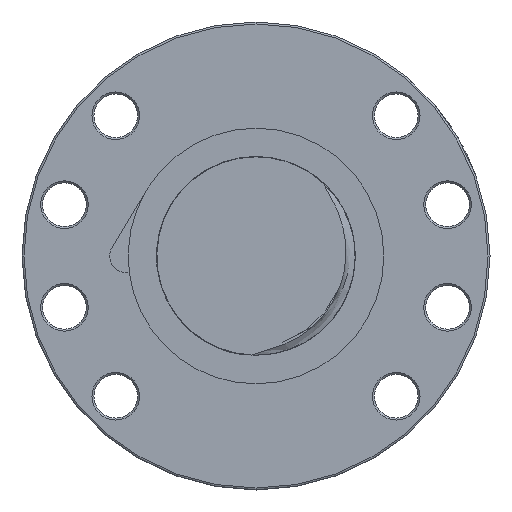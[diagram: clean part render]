
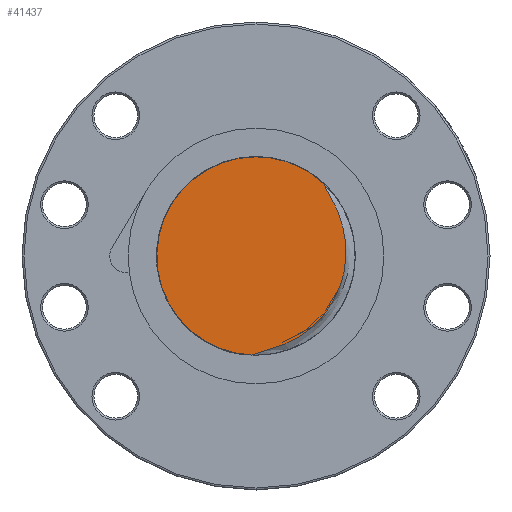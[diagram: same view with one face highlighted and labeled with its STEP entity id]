
A CAD part, left-side view. The second image highlights one B-rep face of the part: STEP entity #41437.
In plain terms, the highlighted planar face has unit normal (-1, 0, 0).
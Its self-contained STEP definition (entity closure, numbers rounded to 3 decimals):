
#1887 = CARTESIAN_POINT ( 'NONE',  ( -295., -5.178, -23.082 ) ) ;
#1888 = CARTESIAN_POINT ( 'NONE',  ( -295., -4.614, -23.28 ) ) ;
#1889 = CARTESIAN_POINT ( 'NONE',  ( -295., -3.478, -23.648 ) ) ;
#1890 = CARTESIAN_POINT ( 'NONE',  ( -295., -2.906, -23.819 ) ) ;
#1891 = CARTESIAN_POINT ( 'NONE',  ( -295., -1.757, -24.142 ) ) ;
#1892 = CARTESIAN_POINT ( 'NONE',  ( -295., -1.18, -24.294 ) ) ;
#1893 = CARTESIAN_POINT ( 'NONE',  ( -295., -0.316, -24.528 ) ) ;
#1894 = CARTESIAN_POINT ( 'NONE',  ( -295., -0.028, -24.607 ) ) ;
#1895 = CARTESIAN_POINT ( 'NONE',  ( -295., 0.544, -24.777 ) ) ;
#1896 = CARTESIAN_POINT ( 'NONE',  ( -295., 0.828, -24.866 ) ) ;
#1897 = CARTESIAN_POINT ( 'NONE',  ( -295., 1.104, -24.976 ) ) ;
#1898 = B_SPLINE_CURVE_WITH_KNOTS ( 'NONE', 3,
 ( #1897, #1896, #1895, #1894, #1893, #1892, #1891, #1890, #1889, #1888, #1887, #1969, #1968, #1967, #1966, #1965, #1964, #1963, #1962, #1961, #1960, #1959, #1958, #1957, #1956, #1955, #1954, #1953, #1952, #1951, #1950, #1949, #1948, #1947, #1946, #1945, #1944, #1943, #1942, #1941, #1940, #1939, #1938, #1937, #1936, #1935, #1934, #1933, #1932, #1931, #1930, #1929, #1928, #1927 ),
 .UNSPECIFIED., .F., .F.,
 ( 4, 2, 2, 2, 2, 2, 2, 2, 2, 2, 2, 2, 2, 2, 2, 2, 2, 2, 2, 2, 2, 2, 2, 2, 2, 2, 4 ),
 ( 0.001, 0.002, 0.002, 0.004, 0.006, 0.008, 0.011, 0.013, 0.015, 0.018, 0.022, 0.024, 0.026, 0.029, 0.031, 0.033, 0.036, 0.038, 0.04, 0.043, 0.047, 0.049, 0.051, 0.054, 0.056, 0.057, 0.058 ),
 .UNSPECIFIED. ) ;
#1927 = CARTESIAN_POINT ( 'NONE',  ( -295., -16.879, 18.441 ) ) ;
#1928 = CARTESIAN_POINT ( 'NONE',  ( -295., -16.997, 18.169 ) ) ;
#1929 = CARTESIAN_POINT ( 'NONE',  ( -295., -17.134, 17.906 ) ) ;
#1930 = CARTESIAN_POINT ( 'NONE',  ( -295., -17.417, 17.384 ) ) ;
#1931 = CARTESIAN_POINT ( 'NONE',  ( -295., -17.564, 17.126 ) ) ;
#1932 = CARTESIAN_POINT ( 'NONE',  ( -295., -18.009, 16.352 ) ) ;
#1933 = CARTESIAN_POINT ( 'NONE',  ( -295., -18.308, 15.838 ) ) ;
#1934 = CARTESIAN_POINT ( 'NONE',  ( -295., -19.18, 14.283 ) ) ;
#1935 = CARTESIAN_POINT ( 'NONE',  ( -295., -19.727, 13.23 ) ) ;
#1936 = CARTESIAN_POINT ( 'NONE',  ( -295., -20.456, 11.605 ) ) ;
#1937 = CARTESIAN_POINT ( 'NONE',  ( -295., -20.684, 11.055 ) ) ;
#1938 = CARTESIAN_POINT ( 'NONE',  ( -295., -21.109, 9.942 ) ) ;
#1939 = CARTESIAN_POINT ( 'NONE',  ( -295., -21.305, 9.376 ) ) ;
#1940 = CARTESIAN_POINT ( 'NONE',  ( -295., -21.837, 7.671 ) ) ;
#1941 = CARTESIAN_POINT ( 'NONE',  ( -295., -22.117, 6.521 ) ) ;
#1942 = CARTESIAN_POINT ( 'NONE',  ( -295., -22.52, 4.193 ) ) ;
#1943 = CARTESIAN_POINT ( 'NONE',  ( -295., -22.644, 3.014 ) ) ;
#1944 = CARTESIAN_POINT ( 'NONE',  ( -295., -22.707, 1.224 ) ) ;
#1945 = CARTESIAN_POINT ( 'NONE',  ( -295., -22.707, 0.626 ) ) ;
#1946 = CARTESIAN_POINT ( 'NONE',  ( -295., -22.665, -0.561 ) ) ;
#1947 = CARTESIAN_POINT ( 'NONE',  ( -295., -22.623, -1.152 ) ) ;
#1948 = CARTESIAN_POINT ( 'NONE',  ( -295., -22.435, -2.914 ) ) ;
#1949 = CARTESIAN_POINT ( 'NONE',  ( -295., -22.227, -4.076 ) ) ;
#1950 = CARTESIAN_POINT ( 'NONE',  ( -295., -21.79, -5.802 ) ) ;
#1951 = CARTESIAN_POINT ( 'NONE',  ( -295., -21.623, -6.375 ) ) ;
#1952 = CARTESIAN_POINT ( 'NONE',  ( -295., -21.247, -7.51 ) ) ;
#1953 = CARTESIAN_POINT ( 'NONE',  ( -295., -21.039, -8.067 ) ) ;
#1954 = CARTESIAN_POINT ( 'NONE',  ( -295., -20.36, -9.708 ) ) ;
#1955 = CARTESIAN_POINT ( 'NONE',  ( -295., -19.831, -10.762 ) ) ;
#1956 = CARTESIAN_POINT ( 'NONE',  ( -295., -18.929, -12.285 ) ) ;
#1957 = CARTESIAN_POINT ( 'NONE',  ( -295., -18.609, -12.782 ) ) ;
#1958 = CARTESIAN_POINT ( 'NONE',  ( -295., -17.933, -13.757 ) ) ;
#1959 = CARTESIAN_POINT ( 'NONE',  ( -295., -17.575, -14.236 ) ) ;
#1960 = CARTESIAN_POINT ( 'NONE',  ( -295., -16.45, -15.631 ) ) ;
#1961 = CARTESIAN_POINT ( 'NONE',  ( -295., -15.643, -16.497 ) ) ;
#1962 = CARTESIAN_POINT ( 'NONE',  ( -295., -13.92, -18.109 ) ) ;
#1963 = CARTESIAN_POINT ( 'NONE',  ( -295., -13.005, -18.855 ) ) ;
#1964 = CARTESIAN_POINT ( 'NONE',  ( -295., -11.55, -19.883 ) ) ;
#1965 = CARTESIAN_POINT ( 'NONE',  ( -295., -11.05, -20.212 ) ) ;
#1966 = CARTESIAN_POINT ( 'NONE',  ( -295., -10.031, -20.835 ) ) ;
#1967 = CARTESIAN_POINT ( 'NONE',  ( -295., -9.513, -21.128 ) ) ;
#1968 = CARTESIAN_POINT ( 'NONE',  ( -295., -7.935, -21.959 ) ) ;
#1969 = CARTESIAN_POINT ( 'NONE',  ( -295., -6.85, -22.444 ) ) ;
#18207 = DIRECTION ( 'NONE',  ( 0., 0., -1. ) ) ;
#18208 = DIRECTION ( 'NONE',  ( 1., 0., 0. ) ) ;
#18210 = CARTESIAN_POINT ( 'NONE',  ( -295., 0., 0. ) ) ;
#18212 = AXIS2_PLACEMENT_3D ( 'NONE', #18210, #18208, #18207 ) ;
#18213 = PLANE ( 'NONE',  #18212 ) ;
#18219 = FACE_OUTER_BOUND ( 'NONE', #41438, .T. ) ;
#34980 = CARTESIAN_POINT ( 'NONE',  ( -295., -16.879, 18.441 ) ) ;
#34981 = DIRECTION ( 'NONE',  ( 0., 1., 0. ) ) ;
#34983 = DIRECTION ( 'NONE',  ( 1., 0., 0. ) ) ;
#34984 = AXIS2_PLACEMENT_3D ( 'NONE', #35087, #34983, #34981 ) ;
#34985 = CIRCLE ( 'NONE', #34984, 25. ) ;
#35087 = CARTESIAN_POINT ( 'NONE',  ( -295., 0., 0. ) ) ;
#35106 = CARTESIAN_POINT ( 'NONE',  ( -295., 1.104, -24.976 ) ) ;
#40538 = EDGE_CURVE ( 'NONE', #40838, #40539, #44882, .T. ) ;
#40539 = VERTEX_POINT ( 'NONE', #44877 ) ;
#40838 = VERTEX_POINT ( 'NONE', #35106 ) ;
#40846 = EDGE_CURVE ( 'NONE', #40539, #40847, #34985, .T. ) ;
#40847 = VERTEX_POINT ( 'NONE', #34980 ) ;
#40958 = ORIENTED_EDGE ( 'NONE', *, *, #40538, .F. ) ;
#40959 = ORIENTED_EDGE ( 'NONE', *, *, #40960, .T. ) ;
#40960 = EDGE_CURVE ( 'NONE', #40838, #40847, #1898, .T. ) ;
#40961 = ORIENTED_EDGE ( 'NONE', *, *, #40846, .F. ) ;
#41437 = ADVANCED_FACE ( 'NONE', ( #18219 ), #18213, .F. ) ;
#41438 = EDGE_LOOP ( 'NONE', ( #40958, #40959, #40961 ) ) ;
#44877 = CARTESIAN_POINT ( 'NONE',  ( -295., 0., 25. ) ) ;
#44878 = DIRECTION ( 'NONE',  ( 0., 1., 0. ) ) ;
#44879 = DIRECTION ( 'NONE',  ( 1., 0., 0. ) ) ;
#44880 = CARTESIAN_POINT ( 'NONE',  ( -295., 0., 0. ) ) ;
#44881 = AXIS2_PLACEMENT_3D ( 'NONE', #44880, #44879, #44878 ) ;
#44882 = CIRCLE ( 'NONE', #44881, 25. ) ;
